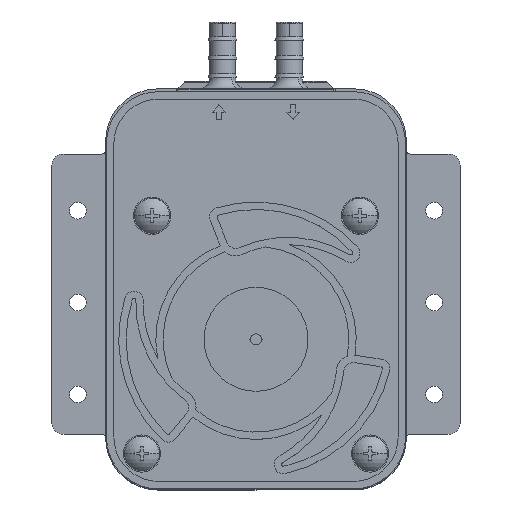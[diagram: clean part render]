
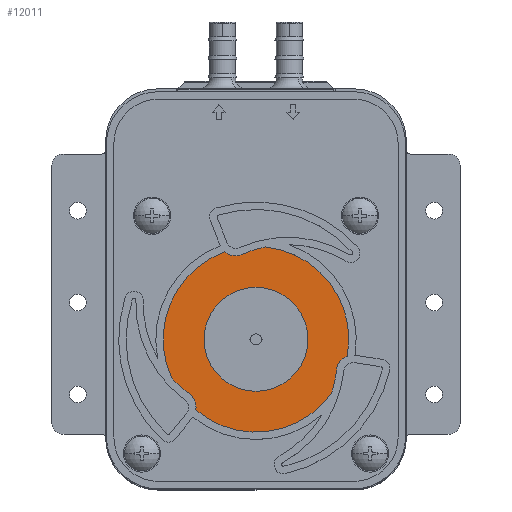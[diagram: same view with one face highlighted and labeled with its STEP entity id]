
A CAD part, top view. The second image highlights one B-rep face of the part: STEP entity #12011.
In plain terms, the highlighted planar face has unit normal (0, 0, 1).
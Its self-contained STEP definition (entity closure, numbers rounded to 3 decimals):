
#182 = AXIS2_PLACEMENT_3D ( 'NONE', #14916, #12453, #20642 ) ;
#395 = DIRECTION ( 'NONE',  ( 0., 0., 1. ) ) ;
#480 = DIRECTION ( 'NONE',  ( 0.202, -0.979, 0. ) ) ;
#1034 = VERTEX_POINT ( 'NONE', #24799 ) ;
#1529 = DIRECTION ( 'NONE',  ( 0.746, 0.666, 0. ) ) ;
#1835 = CARTESIAN_POINT ( 'NONE',  ( -5.5, 27., 2.5 ) ) ;
#2242 = CARTESIAN_POINT ( 'NONE',  ( 0., 0., 2.5 ) ) ;
#2377 = CIRCLE ( 'NONE', #18912, 4.5 ) ;
#2386 = CARTESIAN_POINT ( 'NONE',  ( -8.158, -5.175, 2.5 ) ) ;
#2484 = ORIENTED_EDGE ( 'NONE', *, *, #4488, .F. ) ;
#2570 = EDGE_CURVE ( 'NONE', #10487, #22525, #8426, .T. ) ;
#3188 = CARTESIAN_POINT ( 'NONE',  ( 0., 0., 2.5 ) ) ;
#3428 = AXIS2_PLACEMENT_3D ( 'NONE', #23638, #7466, #1529 ) ;
#3737 = EDGE_CURVE ( 'NONE', #13184, #1034, #11267, .T. ) ;
#4057 = EDGE_CURVE ( 'NONE', #11939, #8205, #18351, .T. ) ;
#4146 = ORIENTED_EDGE ( 'NONE', *, *, #11727, .T. ) ;
#4179 = ORIENTED_EDGE ( 'NONE', *, *, #11793, .T. ) ;
#4290 = AXIS2_PLACEMENT_3D ( 'NONE', #8081, #20392, #480 ) ;
#4488 = EDGE_CURVE ( 'NONE', #15908, #20796, #20445, .T. ) ;
#4737 = DIRECTION ( 'NONE',  ( -0.983, 0.182, 0. ) ) ;
#4866 = PLANE ( 'NONE',  #11263 ) ;
#5226 = CARTESIAN_POINT ( 'NONE',  ( 24.584, -4.542, 2.5 ) ) ;
#6054 = CIRCLE ( 'NONE', #19714, 30. ) ;
#6309 = CARTESIAN_POINT ( 'NONE',  ( 0., 0., 2.5 ) ) ;
#6881 = VERTEX_POINT ( 'NONE', #24471 ) ;
#7146 = CARTESIAN_POINT ( 'NONE',  ( -16.202, -19.039, 2.5 ) ) ;
#7171 = CIRCLE ( 'NONE', #182, 14. ) ;
#7466 = DIRECTION ( 'NONE',  ( 0., 0., 1. ) ) ;
#7843 = DIRECTION ( 'NONE',  ( 0., 0., 1. ) ) ;
#8081 = CARTESIAN_POINT ( 'NONE',  ( 8.553, -4.508, 2.5 ) ) ;
#8138 = CIRCLE ( 'NONE', #11427, 4.5 ) ;
#8205 = VERTEX_POINT ( 'NONE', #12499 ) ;
#8249 = DIRECTION ( 'NONE',  ( -1., 0., 0. ) ) ;
#8426 = CIRCLE ( 'NONE', #17513, 4.5 ) ;
#8665 = EDGE_LOOP ( 'NONE', ( #2484, #10931 ) ) ;
#8738 = FACE_OUTER_BOUND ( 'NONE', #16192, .T. ) ;
#9140 = CARTESIAN_POINT ( 'NONE',  ( 14., 0., 2.5 ) ) ;
#9479 = CARTESIAN_POINT ( 'NONE',  ( -17.997, -14.651, 2.5 ) ) ;
#10116 = DIRECTION ( 'NONE',  ( 0., 0., 1. ) ) ;
#10249 = DIRECTION ( 'NONE',  ( -0.95, 0.312, 0. ) ) ;
#10269 = CARTESIAN_POINT ( 'NONE',  ( 26.156, -8.758, 2.5 ) ) ;
#10487 = VERTEX_POINT ( 'NONE', #15652 ) ;
#10490 = AXIS2_PLACEMENT_3D ( 'NONE', #6309, #395, #8249 ) ;
#10666 = FACE_BOUND ( 'NONE', #8665, .T. ) ;
#10776 = DIRECTION ( 'NONE',  ( 0.707, 0.707, 0. ) ) ;
#10931 = ORIENTED_EDGE ( 'NONE', *, *, #13618, .F. ) ;
#11263 = AXIS2_PLACEMENT_3D ( 'NONE', #24411, #16904, #10776 ) ;
#11267 = CIRCLE ( 'NONE', #4290, 30. ) ;
#11427 = AXIS2_PLACEMENT_3D ( 'NONE', #1835, #15923, #19816 ) ;
#11727 = EDGE_CURVE ( 'NONE', #8205, #22737, #15810, .T. ) ;
#11793 = EDGE_CURVE ( 'NONE', #17582, #6881, #13336, .T. ) ;
#11816 = DIRECTION ( 'NONE',  ( 0., 0., -1. ) ) ;
#11939 = VERTEX_POINT ( 'NONE', #20011 ) ;
#12011 = ADVANCED_FACE ( 'NONE', ( #8738, #10666 ), #4866, .T. ) ;
#12140 = ORIENTED_EDGE ( 'NONE', *, *, #18728, .T. ) ;
#12172 = EDGE_CURVE ( 'NONE', #22525, #13184, #13357, .T. ) ;
#12453 = DIRECTION ( 'NONE',  ( 0., 0., 1. ) ) ;
#12499 = CARTESIAN_POINT ( 'NONE',  ( -22.756, -10.351, 2.5 ) ) ;
#12714 = ORIENTED_EDGE ( 'NONE', *, *, #4057, .T. ) ;
#13184 = VERTEX_POINT ( 'NONE', #16519 ) ;
#13336 = CIRCLE ( 'NONE', #25341, 25. ) ;
#13357 = CIRCLE ( 'NONE', #22469, 25. ) ;
#13618 = EDGE_CURVE ( 'NONE', #20796, #15908, #7171, .T. ) ;
#13668 = CARTESIAN_POINT ( 'NONE',  ( 0., 0., 2.5 ) ) ;
#14916 = CARTESIAN_POINT ( 'NONE',  ( 0., 0., 2.5 ) ) ;
#15480 = ORIENTED_EDGE ( 'NONE', *, *, #12172, .T. ) ;
#15652 = CARTESIAN_POINT ( 'NONE',  ( 21.68, -8.291, 2.5 ) ) ;
#15702 = DIRECTION ( 'NONE',  ( 0.336, -0.942, 0. ) ) ;
#15810 = CIRCLE ( 'NONE', #3428, 30. ) ;
#15908 = VERTEX_POINT ( 'NONE', #25206 ) ;
#15923 = DIRECTION ( 'NONE',  ( 0., 0., -1. ) ) ;
#16165 = ORIENTED_EDGE ( 'NONE', *, *, #19053, .T. ) ;
#16192 = EDGE_LOOP ( 'NONE', ( #16165, #12714, #4146, #12140, #4179, #24336, #22019, #15480, #19299 ) ) ;
#16519 = CARTESIAN_POINT ( 'NONE',  ( 2.499, 24.875, 2.5 ) ) ;
#16706 = AXIS2_PLACEMENT_3D ( 'NONE', #2242, #25555, #15702 ) ;
#16904 = DIRECTION ( 'NONE',  ( 0., 0., 1. ) ) ;
#17513 = AXIS2_PLACEMENT_3D ( 'NONE', #10269, #11816, #19747 ) ;
#17582 = VERTEX_POINT ( 'NONE', #7146 ) ;
#18351 = CIRCLE ( 'NONE', #16706, 25. ) ;
#18663 = EDGE_CURVE ( 'NONE', #6881, #10487, #6054, .T. ) ;
#18728 = EDGE_CURVE ( 'NONE', #22737, #17582, #2377, .T. ) ;
#18912 = AXIS2_PLACEMENT_3D ( 'NONE', #22697, #24379, #22566 ) ;
#18974 = DIRECTION ( 'NONE',  ( 0., 0., 1. ) ) ;
#19053 = EDGE_CURVE ( 'NONE', #1034, #11939, #8138, .T. ) ;
#19299 = ORIENTED_EDGE ( 'NONE', *, *, #3737, .T. ) ;
#19714 = AXIS2_PLACEMENT_3D ( 'NONE', #2386, #10116, #10249 ) ;
#19747 = DIRECTION ( 'NONE',  ( -0.349, 0.937, 0. ) ) ;
#19816 = DIRECTION ( 'NONE',  ( -0.642, -0.767, 0. ) ) ;
#20011 = CARTESIAN_POINT ( 'NONE',  ( -8.39, 23.55, 2.5 ) ) ;
#20392 = DIRECTION ( 'NONE',  ( 0., 0., 1. ) ) ;
#20445 = CIRCLE ( 'NONE', #10490, 14. ) ;
#20642 = DIRECTION ( 'NONE',  ( -1., 0., 0. ) ) ;
#20796 = VERTEX_POINT ( 'NONE', #9140 ) ;
#22019 = ORIENTED_EDGE ( 'NONE', *, *, #2570, .T. ) ;
#22469 = AXIS2_PLACEMENT_3D ( 'NONE', #3188, #18974, #4737 ) ;
#22525 = VERTEX_POINT ( 'NONE', #5226 ) ;
#22566 = DIRECTION ( 'NONE',  ( 0.986, -0.166, 0. ) ) ;
#22697 = CARTESIAN_POINT ( 'NONE',  ( -20.64, -18.294, 2.5 ) ) ;
#22737 = VERTEX_POINT ( 'NONE', #9479 ) ;
#23638 = CARTESIAN_POINT ( 'NONE',  ( -0.38, 9.631, 2.5 ) ) ;
#24336 = ORIENTED_EDGE ( 'NONE', *, *, #18663, .T. ) ;
#24379 = DIRECTION ( 'NONE',  ( 0., 0., -1. ) ) ;
#24411 = CARTESIAN_POINT ( 'NONE',  ( 0., 13.2, 2.5 ) ) ;
#24471 = CARTESIAN_POINT ( 'NONE',  ( 20.348, -14.524, 2.5 ) ) ;
#24799 = CARTESIAN_POINT ( 'NONE',  ( -3.667, 22.89, 2.5 ) ) ;
#25080 = DIRECTION ( 'NONE',  ( 0.648, 0.762, 0. ) ) ;
#25206 = CARTESIAN_POINT ( 'NONE',  ( -14., 0., 2.5 ) ) ;
#25341 = AXIS2_PLACEMENT_3D ( 'NONE', #13668, #7843, #25080 ) ;
#25555 = DIRECTION ( 'NONE',  ( 0., 0., 1. ) ) ;
